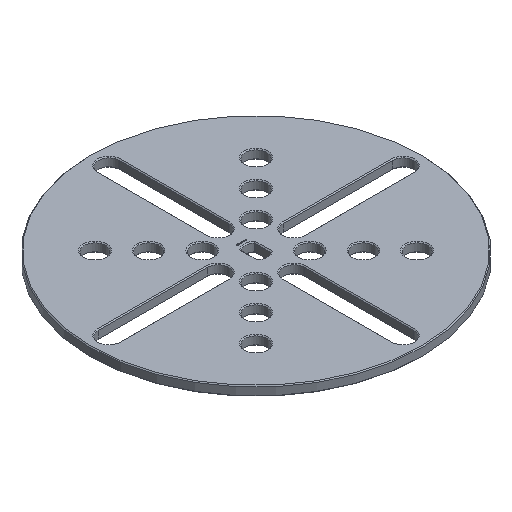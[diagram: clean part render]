
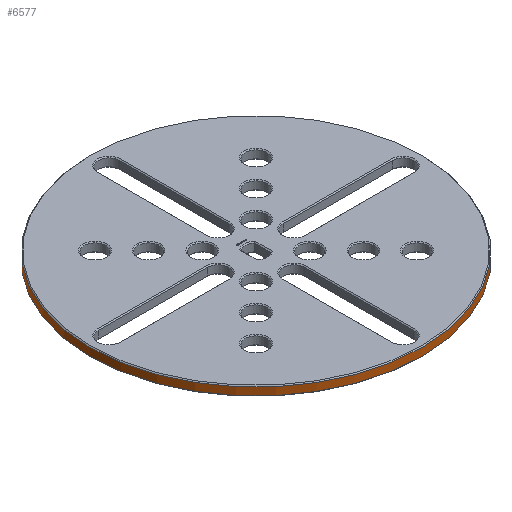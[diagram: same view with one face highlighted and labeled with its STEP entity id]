
A CAD part, isometric view. The second image highlights one B-rep face of the part: STEP entity #6577.
In plain terms, the highlighted cylindrical face has radius 54.688 mm (diameter 109.375 mm), a full revolution.
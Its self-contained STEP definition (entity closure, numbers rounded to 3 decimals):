
#80=CYLINDRICAL_SURFACE('',#7005,54.688);
#672=FACE_OUTER_BOUND('',#1063,.T.);
#1063=EDGE_LOOP('',(#6063,#6064,#6065,#6066));
#1172=CIRCLE('',#7004,54.688);
#1173=CIRCLE('',#7006,54.688);
#1986=LINE('',#10508,#2813);
#2813=VECTOR('',#8611,54.688);
#3418=VERTEX_POINT('',#10502);
#3419=VERTEX_POINT('',#10506);
#4303=EDGE_CURVE('',#3418,#3418,#1172,.T.);
#4305=EDGE_CURVE('',#3419,#3419,#1173,.T.);
#4306=EDGE_CURVE('',#3419,#3418,#1986,.T.);
#6063=ORIENTED_EDGE('',*,*,#4305,.F.);
#6064=ORIENTED_EDGE('',*,*,#4306,.T.);
#6065=ORIENTED_EDGE('',*,*,#4303,.F.);
#6066=ORIENTED_EDGE('',*,*,#4306,.F.);
#6577=ADVANCED_FACE('',(#672),#80,.T.);
#7004=AXIS2_PLACEMENT_3D('',#10503,#8604,#8605);
#7005=AXIS2_PLACEMENT_3D('',#10505,#8607,#8608);
#7006=AXIS2_PLACEMENT_3D('',#10507,#8609,#8610);
#8604=DIRECTION('center_axis',(0.,0.,-1.));
#8605=DIRECTION('ref_axis',(1.,0.,0.));
#8607=DIRECTION('center_axis',(0.,0.,1.));
#8608=DIRECTION('ref_axis',(1.,0.,0.));
#8609=DIRECTION('center_axis',(0.,0.,1.));
#8610=DIRECTION('ref_axis',(1.,0.,0.));
#8611=DIRECTION('',(0.,0.,-1.));
#10502=CARTESIAN_POINT('',(-54.688,0.,0.3));
#10503=CARTESIAN_POINT('Origin',(0.,0.,0.3));
#10505=CARTESIAN_POINT('Origin',(0.,0.,0.));
#10506=CARTESIAN_POINT('',(-54.688,0.,2.825));
#10507=CARTESIAN_POINT('Origin',(0.,0.,2.825));
#10508=CARTESIAN_POINT('',(-54.688,0.,0.));
